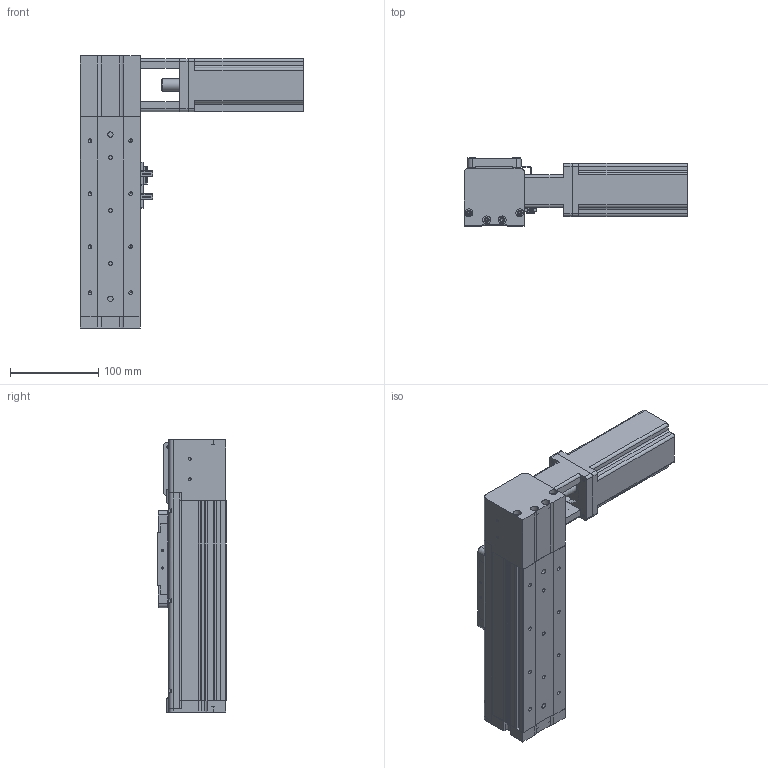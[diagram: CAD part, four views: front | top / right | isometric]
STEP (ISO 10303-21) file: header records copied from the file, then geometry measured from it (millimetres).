
FILE_DESCRIPTION (( 'STEP AP214' ), '1' );
FILE_NAME ('KSD68BS-S50-MRT-CR.STEP', '2019-08-27T06:23:55', ( '微软用户' ), ( '微软中国' ), 'SwSTEP 2.0', 'SolidWorks 2014', '' );
FILE_SCHEMA (( 'AUTOMOTIVE_DESIGN' ));
Length unit declared in the file: millimetre
Products named in the file (13): KSD68BS-S50-MRT-CR; KSD68BS 50行程底板全封闭; 台达ECMA－C20604AS伺服电机（400W); 感应片68宽全封闭; 68单导轨全封闭同步带安装板; 68单导轨全封闭同步带电机座左; 68宽单导轨全封闭同步带端板; KSD68BS 50行程侧板全封闭; 68宽单导轨全封闭丝杆传动安装板1防护罩; 68遵裔啣揤啣1; KSD68BS 50行程盖板全封闭; 100遵鎮湛假蚾啣1; U倰嫖萇EEㄜSX672
Assembly tree (15 placements, depth 2):
  KSD68BS-S50-MRT-CR
    KSD68BS 50行程底板全封闭
    台达ECMA－C20604AS伺服电机（400W)
    感应片68宽全封闭
    68单导轨全封闭同步带安装板
    68单导轨全封闭同步带电机座左
    68宽单导轨全封闭同步带端板
    KSD68BS 50行程侧板全封闭  x2
    68宽单导轨全封闭丝杆传动安装板1防护罩
    68遵裔啣揤啣1  x2
    KSD68BS 50行程盖板全封闭
    100遵鎮湛假蚾啣1
    U倰嫖萇EEㄜSX672  x2
Bounding box: 252.7 x 77 x 308.1 mm (x, y, z)
Volume: 1203057 mm3; surface area: 328333.5 mm2
Topology: 16 solids, 16 shells, 1191 faces, 3338 edges, 2140 vertices
Faces by surface type: cylinder 539, plane 524, cone 128
Entity records: 39538 total; most frequent: CARTESIAN_POINT 6624, DIRECTION 5929, ORIENTED_EDGE 5692, EDGE_CURVE 2846, AXIS2_PLACEMENT_3D 2101, VERTEX_POINT 1866, LINE 1727, VECTOR 1727
